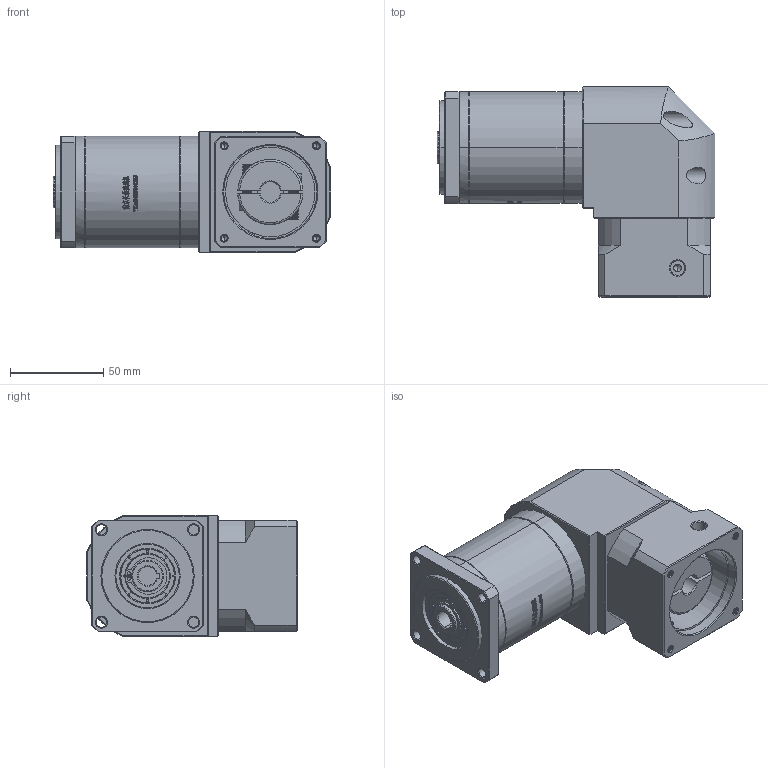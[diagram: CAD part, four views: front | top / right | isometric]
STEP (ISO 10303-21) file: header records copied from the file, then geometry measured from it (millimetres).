
FILE_DESCRIPTION (( 'STEP AP214' ), '1' );
FILE_NAME ('ZFR60-K10-L2-11-50-70-M4.STEP', '2022-04-20T08:32:41', ( '' ), ( 'Microsoft' ), 'SwSTEP 2.0', 'SolidWorks 2016', '' );
FILE_SCHEMA (( 'AUTOMOTIVE_DESIGN' ));
Length unit declared in the file: millimetre
Products named in the file (1): ZFR60-K10-L2-11-50-70-M4
Bounding box: 149 x 112.7 x 65 mm (x, y, z)
Volume: 579986.9 mm3; surface area: 80767.5 mm2
Topology: 5 solids, 6 shells, 2619 faces, 7150 edges, 4667 vertices
Faces by surface type: plane 1390, bspline 572, cylinder 351, cone 282, torus 24
Entity records: 140439 total; most frequent: CARTESIAN_POINT 50602, ORIENTED_EDGE 14260, DIRECTION 10304, EDGE_CURVE 7130, VERTEX_POINT 4667, LINE 4318, VECTOR 4318, AXIS2_PLACEMENT_3D 2993
